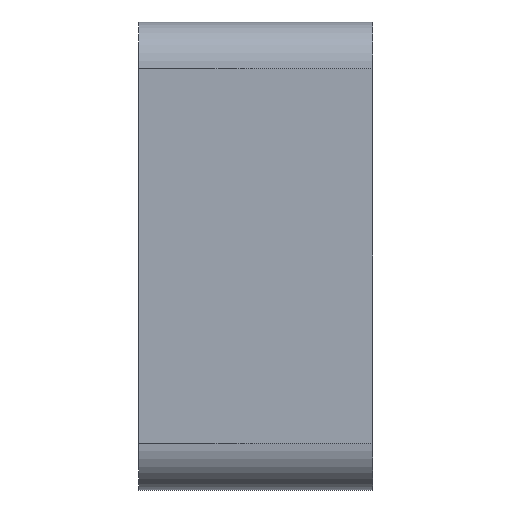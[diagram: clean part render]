
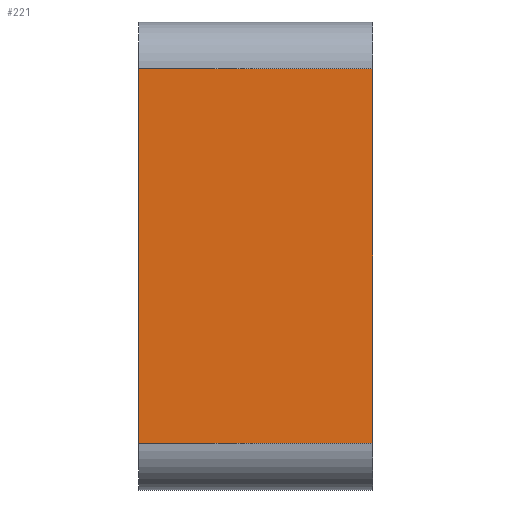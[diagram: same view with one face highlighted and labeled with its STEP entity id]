
A CAD part, left-side view. The second image highlights one B-rep face of the part: STEP entity #221.
In plain terms, the highlighted planar face has unit normal (-1, 0, 0).
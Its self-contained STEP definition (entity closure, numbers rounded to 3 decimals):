
#221=ADVANCED_FACE('',(#445),#446,.T.);
#445=FACE_OUTER_BOUND('',#675,.T.);
#446=PLANE('',#676);
#675=EDGE_LOOP('',(#1209,#1210,#1211,#1212));
#676=AXIS2_PLACEMENT_3D('',#1213,#1214,#1215);
#1209=ORIENTED_EDGE('',*,*,#1670,.T.);
#1210=ORIENTED_EDGE('',*,*,#1671,.F.);
#1211=ORIENTED_EDGE('',*,*,#1672,.T.);
#1212=ORIENTED_EDGE('',*,*,#1673,.T.);
#1213=CARTESIAN_POINT('',(-20.0,10.0,0.0));
#1214=DIRECTION('',(-1.0,0.0,0.0));
#1215=DIRECTION('',(0.0,0.0,-1.0));
#1670=EDGE_CURVE('',#2077,#2078,#2079,.T.);
#1671=EDGE_CURVE('',#2080,#2078,#2081,.T.);
#1672=EDGE_CURVE('',#2080,#2082,#2083,.T.);
#1673=EDGE_CURVE('',#2082,#2077,#2084,.T.);
#2077=VERTEX_POINT('',#2614);
#2078=VERTEX_POINT('',#2615);
#2079=LINE('',#2616,#2617);
#2080=VERTEX_POINT('',#2618);
#2081=LINE('',#2619,#2620);
#2082=VERTEX_POINT('',#2621);
#2083=LINE('',#2622,#2623);
#2084=LINE('',#2624,#2625);
#2614=CARTESIAN_POINT('',(-20.0,-10.0,-16.0));
#2615=CARTESIAN_POINT('',(-20.0,-10.0,16.0));
#2616=CARTESIAN_POINT('',(-20.0,-10.0,16.0));
#2617=VECTOR('',#3010,1.0);
#2618=CARTESIAN_POINT('',(-20.0,10.0,16.0));
#2619=CARTESIAN_POINT('',(-20.0,10.0,16.0));
#2620=VECTOR('',#3011,1.0);
#2621=CARTESIAN_POINT('',(-20.0,10.0,-16.0));
#2622=CARTESIAN_POINT('',(-20.0,10.0,16.0));
#2623=VECTOR('',#3012,1.0);
#2624=CARTESIAN_POINT('',(-20.0,10.0,-16.0));
#2625=VECTOR('',#3013,1.0);
#3010=DIRECTION('',(0.0,0.0,1.0));
#3011=DIRECTION('',(0.0,-1.0,0.0));
#3012=DIRECTION('',(0.0,0.0,-1.0));
#3013=DIRECTION('',(0.0,-1.0,0.0));
